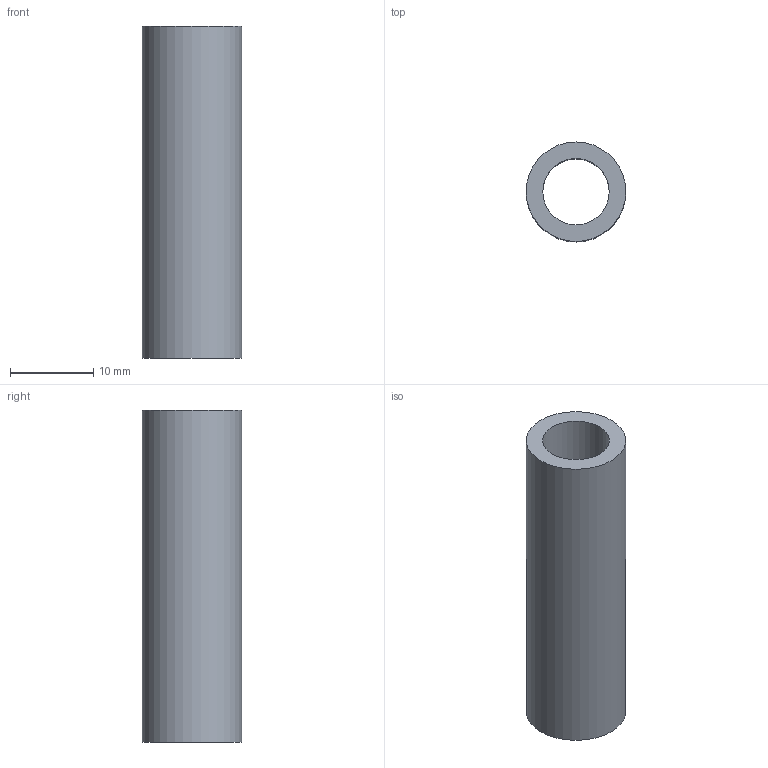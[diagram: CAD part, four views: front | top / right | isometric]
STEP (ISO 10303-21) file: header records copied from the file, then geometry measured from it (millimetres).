
FILE_DESCRIPTION(('Open CASCADE Model'),'2;1');
FILE_NAME('Open CASCADE Shape Model','2026-10-16T19:20:09',('Author'),( 'Open CASCADE'),'Open CASCADE STEP processor 7.8','Open CASCADE 7.8' ,'Unknown');
FILE_SCHEMA(('AUTOMOTIVE_DESIGN { 1 0 10303 214 1 1 1 1 }'));
Length unit declared in the file: millimetre
Products named in the file (1): Open CASCADE STEP translator 7.8 34
Bounding box: 12 x 12 x 40 mm (x, y, z)
Volume: 2513.3 mm3; surface area: 2638.9 mm2
Topology: 1 solids, 1 shells, 4 faces, 6 edges, 4 vertices
Faces by surface type: cylinder 2, plane 2
Full cylindrical faces by diameter (mm): 8 x1, 12 x1
Entity records: 192 total; most frequent: CARTESIAN_POINT 39, DIRECTION 30, ORIENTED_EDGE 12, PCURVE 12, DEFINITIONAL_REPRESENTATION 12, LINE 10, VECTOR 10, AXIS2_PLACEMENT_3D 9
